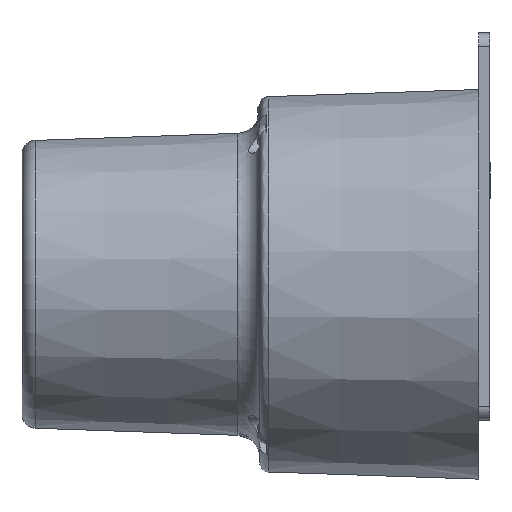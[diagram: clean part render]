
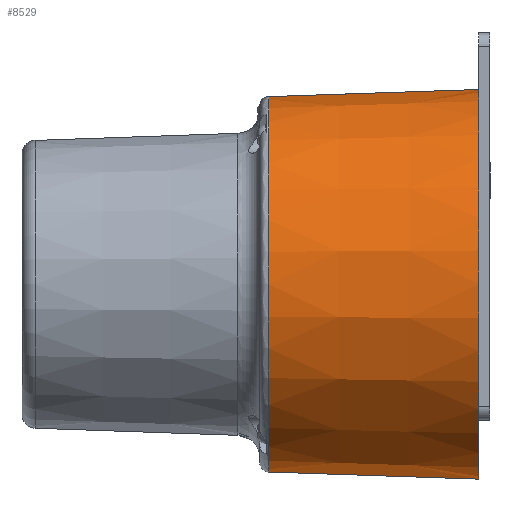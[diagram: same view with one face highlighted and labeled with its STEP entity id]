
A CAD part, left-side view. The second image highlights one B-rep face of the part: STEP entity #8529.
In plain terms, the highlighted conical face has half-angle 1.939 degrees and reference radius 43 mm.
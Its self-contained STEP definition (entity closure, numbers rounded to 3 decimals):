
#25 = CARTESIAN_POINT ( 'NONE',  ( 0., 0., 0. ) ) ;
#67 = DIRECTION ( 'NONE',  ( 0., 0., 1. ) ) ;
#130 = LINE ( 'NONE', #8271, #2650 ) ;
#162 = VERTEX_POINT ( 'NONE', #4541 ) ;
#847 = ORIENTED_EDGE ( 'NONE', *, *, #2298, .T. ) ;
#1015 = VERTEX_POINT ( 'NONE', #2929 ) ;
#1113 = ORIENTED_EDGE ( 'NONE', *, *, #6187, .F. ) ;
#1470 = CARTESIAN_POINT ( 'NONE',  ( 0., 0., 43. ) ) ;
#2172 = ORIENTED_EDGE ( 'NONE', *, *, #4578, .T. ) ;
#2298 = EDGE_CURVE ( 'NONE', #1015, #162, #3598, .T. ) ;
#2514 = CIRCLE ( 'NONE', #7311, 43. ) ;
#2589 = CONICAL_SURFACE ( 'NONE', #3143, 43., 0.034 ) ;
#2601 = DIRECTION ( 'NONE',  ( 0., 0., -1. ) ) ;
#2650 = VECTOR ( 'NONE', #4239, 1000. ) ;
#2929 = CARTESIAN_POINT ( 'NONE',  ( 0., 46.368, 41.43 ) ) ;
#3036 = LINE ( 'NONE', #5735, #8563 ) ;
#3143 = AXIS2_PLACEMENT_3D ( 'NONE', #5201, #5861, #7904 ) ;
#3245 = VERTEX_POINT ( 'NONE', #6492 ) ;
#3598 = CIRCLE ( 'NONE', #7411, 41.43 ) ;
#3888 = DIRECTION ( 'NONE',  ( 0., -1., 0. ) ) ;
#4239 = DIRECTION ( 'NONE',  ( 0., -0.999, 0.034 ) ) ;
#4541 = CARTESIAN_POINT ( 'NONE',  ( 0., 46.368, -41.43 ) ) ;
#4578 = EDGE_CURVE ( 'NONE', #162, #3245, #3036, .T. ) ;
#5201 = CARTESIAN_POINT ( 'NONE',  ( 0., 0., 0. ) ) ;
#5581 = VERTEX_POINT ( 'NONE', #1470 ) ;
#5735 = CARTESIAN_POINT ( 'NONE',  ( 0., 0., -43. ) ) ;
#5861 = DIRECTION ( 'NONE',  ( 0., -1., 0. ) ) ;
#6187 = EDGE_CURVE ( 'NONE', #1015, #5581, #130, .T. ) ;
#6492 = CARTESIAN_POINT ( 'NONE',  ( 0., 0., -43. ) ) ;
#6884 = EDGE_CURVE ( 'NONE', #3245, #5581, #2514, .T. ) ;
#6957 = DIRECTION ( 'NONE',  ( 0., 1., 0. ) ) ;
#7102 = FACE_OUTER_BOUND ( 'NONE', #7516, .T. ) ;
#7280 = DIRECTION ( 'NONE',  ( 0., -0.999, -0.034 ) ) ;
#7284 = CARTESIAN_POINT ( 'NONE',  ( 0., 46.368, 0. ) ) ;
#7311 = AXIS2_PLACEMENT_3D ( 'NONE', #25, #6957, #67 ) ;
#7318 = ORIENTED_EDGE ( 'NONE', *, *, #6884, .T. ) ;
#7411 = AXIS2_PLACEMENT_3D ( 'NONE', #7284, #3888, #2601 ) ;
#7516 = EDGE_LOOP ( 'NONE', ( #1113, #847, #2172, #7318 ) ) ;
#7904 = DIRECTION ( 'NONE',  ( 0., 0., 1. ) ) ;
#8271 = CARTESIAN_POINT ( 'NONE',  ( 0., 0., 43. ) ) ;
#8529 = ADVANCED_FACE ( 'NONE', ( #7102 ), #2589, .T. ) ;
#8563 = VECTOR ( 'NONE', #7280, 1000. ) ;
